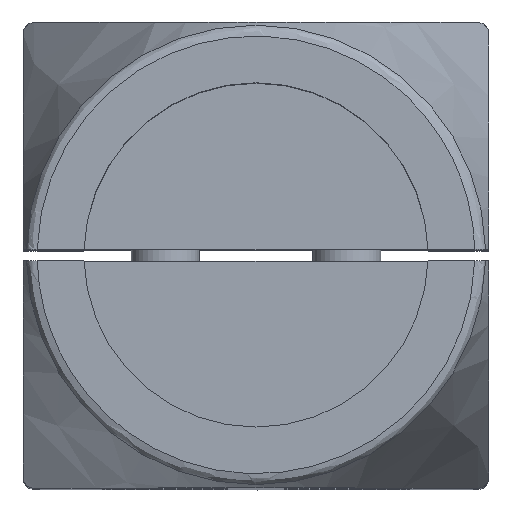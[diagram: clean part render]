
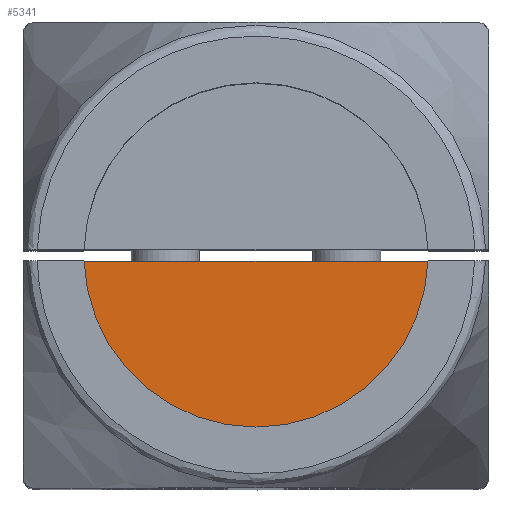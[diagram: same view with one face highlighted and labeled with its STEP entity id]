
A CAD part, top view. The second image highlights one B-rep face of the part: STEP entity #5341.
In plain terms, the highlighted planar face has unit normal (0, 0, 1).
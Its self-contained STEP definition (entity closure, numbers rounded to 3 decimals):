
#203 = DIRECTION ( 'NONE',  ( 0., 0., 1. ) ) ;
#547 = AXIS2_PLACEMENT_3D ( 'NONE', #4691, #2420, #5628 ) ;
#849 = EDGE_CURVE ( 'NONE', #4721, #2649, #2119, .T. ) ;
#1059 = ORIENTED_EDGE ( 'NONE', *, *, #849, .T. ) ;
#1590 = CARTESIAN_POINT ( 'NONE',  ( 0., 0., 30. ) ) ;
#2023 = AXIS2_PLACEMENT_3D ( 'NONE', #1590, #203, #3447 ) ;
#2119 = LINE ( 'NONE', #2758, #4108 ) ;
#2420 = DIRECTION ( 'NONE',  ( 0., 0., -1. ) ) ;
#2649 = VERTEX_POINT ( 'NONE', #3312 ) ;
#2739 = DIRECTION ( 'NONE',  ( -1., 0., 0. ) ) ;
#2758 = CARTESIAN_POINT ( 'NONE',  ( -20.505, -0.5, 30. ) ) ;
#2803 = EDGE_CURVE ( 'NONE', #2649, #4721, #5562, .T. ) ;
#2848 = FACE_OUTER_BOUND ( 'NONE', #3848, .T. ) ;
#3312 = CARTESIAN_POINT ( 'NONE',  ( -15.142, -0.5, 30. ) ) ;
#3326 = PLANE ( 'NONE',  #547 ) ;
#3447 = DIRECTION ( 'NONE',  ( -1., 0., 0. ) ) ;
#3848 = EDGE_LOOP ( 'NONE', ( #5597, #1059 ) ) ;
#4108 = VECTOR ( 'NONE', #2739, 1000. ) ;
#4691 = CARTESIAN_POINT ( 'NONE',  ( 0., 0., 30. ) ) ;
#4721 = VERTEX_POINT ( 'NONE', #5914 ) ;
#5341 = ADVANCED_FACE ( 'NONE', ( #2848 ), #3326, .F. ) ;
#5562 = CIRCLE ( 'NONE', #2023, 15.15 ) ;
#5597 = ORIENTED_EDGE ( 'NONE', *, *, #2803, .T. ) ;
#5628 = DIRECTION ( 'NONE',  ( -1., 0., 0. ) ) ;
#5914 = CARTESIAN_POINT ( 'NONE',  ( 15.142, -0.5, 30. ) ) ;
